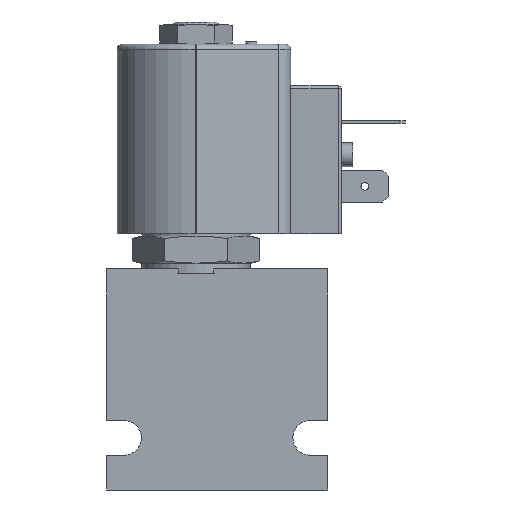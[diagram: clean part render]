
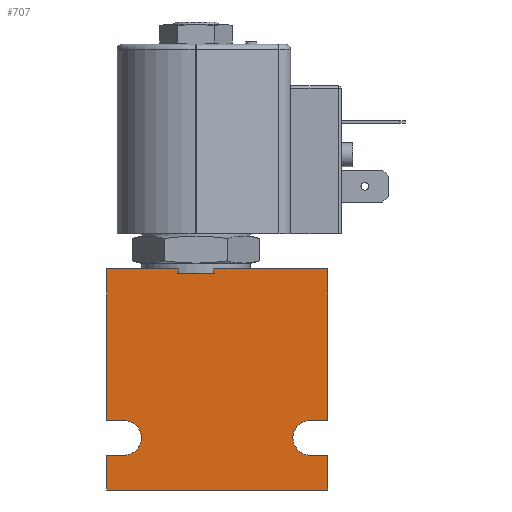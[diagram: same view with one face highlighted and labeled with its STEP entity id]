
A CAD part, front view. The second image highlights one B-rep face of the part: STEP entity #707.
In plain terms, the highlighted planar face has unit normal (0, -1, 0).
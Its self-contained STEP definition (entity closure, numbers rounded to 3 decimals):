
#707 = ADVANCED_FACE( '', ( #1494 ), #1495, .T. );
#1494 = FACE_OUTER_BOUND( '', #2471, .T. );
#1495 = PLANE( '', #2472 );
#2471 = EDGE_LOOP( '', ( #3870, #3871, #3872, #3873, #3874, #3875, #3876, #3877, #3878, #3879, #3880, #3881, #3882, #3883, #3884, #3885 ) );
#2472 = AXIS2_PLACEMENT_3D( '', #3886, #3887, #3888 );
#3870 = ORIENTED_EDGE( '', *, *, #5294, .T. );
#3871 = ORIENTED_EDGE( '', *, *, #5200, .T. );
#3872 = ORIENTED_EDGE( '', *, *, #5525, .T. );
#3873 = ORIENTED_EDGE( '', *, *, #5526, .F. );
#3874 = ORIENTED_EDGE( '', *, *, #5527, .F. );
#3875 = ORIENTED_EDGE( '', *, *, #5305, .F. );
#3876 = ORIENTED_EDGE( '', *, *, #5528, .F. );
#3877 = ORIENTED_EDGE( '', *, *, #5105, .F. );
#3878 = ORIENTED_EDGE( '', *, *, #5529, .F. );
#3879 = ORIENTED_EDGE( '', *, *, #5530, .T. );
#3880 = ORIENTED_EDGE( '', *, *, #5531, .F. );
#3881 = ORIENTED_EDGE( '', *, *, #5319, .F. );
#3882 = ORIENTED_EDGE( '', *, *, #5532, .F. );
#3883 = ORIENTED_EDGE( '', *, *, #5533, .T. );
#3884 = ORIENTED_EDGE( '', *, *, #5416, .T. );
#3885 = ORIENTED_EDGE( '', *, *, #5534, .T. );
#3886 = CARTESIAN_POINT( '', ( 22.25, -12.7, 44.5 ) );
#3887 = DIRECTION( '', ( 0., -1., 0. ) );
#3888 = DIRECTION( '', ( 1., 0., 0. ) );
#5105 = EDGE_CURVE( '', #5881, #5882, #5883, .T. );
#5200 = EDGE_CURVE( '', #6040, #6045, #6047, .T. );
#5294 = EDGE_CURVE( '', #6197, #6040, #6201, .F. );
#5305 = EDGE_CURVE( '', #6217, #6218, #6219, .T. );
#5319 = EDGE_CURVE( '', #6241, #6242, #6243, .T. );
#5416 = EDGE_CURVE( '', #6398, #6396, #6399, .T. );
#5525 = EDGE_CURVE( '', #6045, #6560, #6561, .T. );
#5526 = EDGE_CURVE( '', #6562, #6560, #6563, .T. );
#5527 = EDGE_CURVE( '', #6218, #6562, #6564, .T. );
#5528 = EDGE_CURVE( '', #5882, #6217, #6565, .T. );
#5529 = EDGE_CURVE( '', #6566, #5881, #6567, .T. );
#5530 = EDGE_CURVE( '', #6566, #6568, #6569, .T. );
#5531 = EDGE_CURVE( '', #6242, #6568, #6570, .F. );
#5532 = EDGE_CURVE( '', #6571, #6241, #6572, .T. );
#5533 = EDGE_CURVE( '', #6571, #6398, #6573, .T. );
#5534 = EDGE_CURVE( '', #6396, #6197, #6574, .T. );
#5881 = VERTEX_POINT( '', #7007 );
#5882 = VERTEX_POINT( '', #7008 );
#5883 = LINE( '', #7009, #7010 );
#6040 = VERTEX_POINT( '', #7268 );
#6045 = VERTEX_POINT( '', #7275 );
#6047 = LINE( '', #7278, #7279 );
#6197 = VERTEX_POINT( '', #7533 );
#6201 = CIRCLE( '', #7538, 3.5 );
#6217 = VERTEX_POINT( '', #7563 );
#6218 = VERTEX_POINT( '', #7564 );
#6219 = LINE( '', #7565, #7566 );
#6241 = VERTEX_POINT( '', #7612 );
#6242 = VERTEX_POINT( '', #7613 );
#6243 = LINE( '', #7614, #7615 );
#6396 = VERTEX_POINT( '', #7853 );
#6398 = VERTEX_POINT( '', #7856 );
#6399 = LINE( '', #7857, #7858 );
#6560 = VERTEX_POINT( '', #8154 );
#6561 = LINE( '', #8155, #8156 );
#6562 = VERTEX_POINT( '', #8157 );
#6563 = LINE( '', #8158, #8159 );
#6564 = LINE( '', #8160, #8161 );
#6565 = CIRCLE( '', #8162, 3.5 );
#6566 = VERTEX_POINT( '', #8163 );
#6567 = LINE( '', #8164, #8165 );
#6568 = VERTEX_POINT( '', #8166 );
#6569 = LINE( '', #8167, #8168 );
#6570 = LINE( '', #8169, #8170 );
#6571 = VERTEX_POINT( '', #8171 );
#6572 = LINE( '', #8172, #8173 );
#6573 = LINE( '', #8174, #8175 );
#6574 = LINE( '', #8176, #8177 );
#7007 = CARTESIAN_POINT( '', ( 22.25, -12.7, 14. ) );
#7008 = CARTESIAN_POINT( '', ( 18.75, -12.7, 14. ) );
#7009 = CARTESIAN_POINT( '', ( 22.25, -12.7, 14. ) );
#7010 = VECTOR( '', #9061, 1000. );
#7268 = CARTESIAN_POINT( '', ( -18.75, -12.7, 7. ) );
#7275 = CARTESIAN_POINT( '', ( -22.25, -12.7, 7. ) );
#7278 = CARTESIAN_POINT( '', ( 22.25, -12.7, 7. ) );
#7279 = VECTOR( '', #9177, 1000. );
#7533 = CARTESIAN_POINT( '', ( -18.75, -12.7, 14. ) );
#7538 = AXIS2_PLACEMENT_3D( '', #9271, #9272, #9273 );
#7563 = CARTESIAN_POINT( '', ( 18.75, -12.7, 7. ) );
#7564 = CARTESIAN_POINT( '', ( 22.25, -12.7, 7. ) );
#7565 = CARTESIAN_POINT( '', ( 22.25, -12.7, 7. ) );
#7566 = VECTOR( '', #9289, 1000. );
#7612 = CARTESIAN_POINT( '', ( -7.843, -12.7, 43.5 ) );
#7613 = CARTESIAN_POINT( '', ( -0.657, -12.7, 43.5 ) );
#7614 = CARTESIAN_POINT( '', ( 22.25, -12.7, 43.5 ) );
#7615 = VECTOR( '', #9300, 1000. );
#7853 = CARTESIAN_POINT( '', ( -22.25, -12.7, 14. ) );
#7856 = CARTESIAN_POINT( '', ( -22.25, -12.7, 44.5 ) );
#7857 = CARTESIAN_POINT( '', ( -22.25, -12.7, 44.5 ) );
#7858 = VECTOR( '', #9396, 1000. );
#8154 = CARTESIAN_POINT( '', ( -22.25, -12.7, 0. ) );
#8155 = CARTESIAN_POINT( '', ( -22.25, -12.7, 44.5 ) );
#8156 = VECTOR( '', #9498, 1000. );
#8157 = CARTESIAN_POINT( '', ( 22.25, -12.7, 0. ) );
#8158 = CARTESIAN_POINT( '', ( 22.25, -12.7, 0. ) );
#8159 = VECTOR( '', #9499, 1000. );
#8160 = CARTESIAN_POINT( '', ( 22.25, -12.7, 44.5 ) );
#8161 = VECTOR( '', #9500, 1000. );
#8162 = AXIS2_PLACEMENT_3D( '', #9501, #9502, #9503 );
#8163 = CARTESIAN_POINT( '', ( 22.25, -12.7, 44.5 ) );
#8164 = CARTESIAN_POINT( '', ( 22.25, -12.7, 44.5 ) );
#8165 = VECTOR( '', #9504, 1000. );
#8166 = CARTESIAN_POINT( '', ( -0.657, -12.7, 44.5 ) );
#8167 = CARTESIAN_POINT( '', ( 22.25, -12.7, 44.5 ) );
#8168 = VECTOR( '', #9505, 1000. );
#8169 = CARTESIAN_POINT( '', ( -0.657, -12.7, 44.5 ) );
#8170 = VECTOR( '', #9506, 1000. );
#8171 = CARTESIAN_POINT( '', ( -7.843, -12.7, 44.5 ) );
#8172 = CARTESIAN_POINT( '', ( -7.843, -12.7, 44.5 ) );
#8173 = VECTOR( '', #9507, 1000. );
#8174 = CARTESIAN_POINT( '', ( 22.25, -12.7, 44.5 ) );
#8175 = VECTOR( '', #9508, 1000. );
#8176 = CARTESIAN_POINT( '', ( 22.25, -12.7, 14. ) );
#8177 = VECTOR( '', #9509, 1000. );
#9061 = DIRECTION( '', ( -1., 0., 0. ) );
#9177 = DIRECTION( '', ( -1., 0., 0. ) );
#9271 = CARTESIAN_POINT( '', ( -18.75, -12.7, 10.5 ) );
#9272 = DIRECTION( '', ( 0., -1., 0. ) );
#9273 = DIRECTION( '', ( 1., 0., 0. ) );
#9289 = DIRECTION( '', ( 1., 0., 0. ) );
#9300 = DIRECTION( '', ( 1., 0., 0. ) );
#9396 = DIRECTION( '', ( 0., 0., -1. ) );
#9498 = DIRECTION( '', ( 0., 0., -1. ) );
#9499 = DIRECTION( '', ( -1., 0., 0. ) );
#9500 = DIRECTION( '', ( 0., 0., -1. ) );
#9501 = CARTESIAN_POINT( '', ( 18.75, -12.7, 10.5 ) );
#9502 = DIRECTION( '', ( 0., -1., 0. ) );
#9503 = DIRECTION( '', ( 1., 0., 0. ) );
#9504 = DIRECTION( '', ( 0., 0., -1. ) );
#9505 = DIRECTION( '', ( -1., 0., 0. ) );
#9506 = DIRECTION( '', ( 0., 0., -1. ) );
#9507 = DIRECTION( '', ( 0., 0., -1. ) );
#9508 = DIRECTION( '', ( -1., 0., 0. ) );
#9509 = DIRECTION( '', ( 1., 0., 0. ) );
